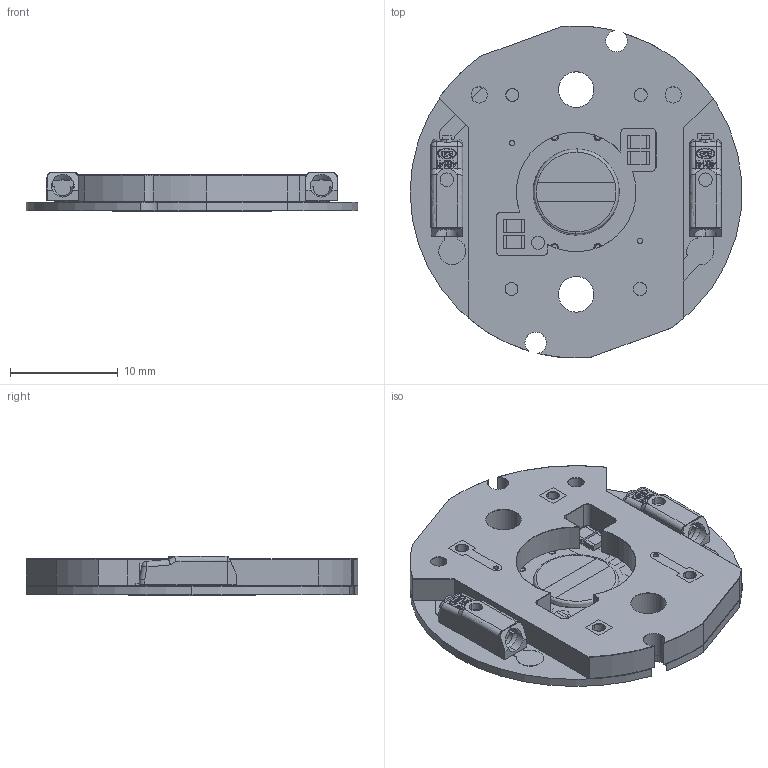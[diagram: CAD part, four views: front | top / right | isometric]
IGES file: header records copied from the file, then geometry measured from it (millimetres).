
Start section: SolidWorks IGES file using analytic representation for surfaces
Global section: file name: C:\Users\jiaqichen\Desktop\DW TW Holder-CoB\New folder\DW 6 Holder-CoB Assembly.IGS; native system: SolidWorks 2020; preprocessor: SolidWorks 2020; author: jiaqichen; date: 200814.173954; units: millimetre
Bounding box: 30.77 x 30.8 x 3.66 mm (x, y, z)
Volume: 1772.9 mm3; surface area: 4187.8 mm2
Topology: 2 solids, 2 shells, 992 faces, 2668 edges, 1748 vertices
Faces by surface type: plane 596, revolution 366, bspline 30
